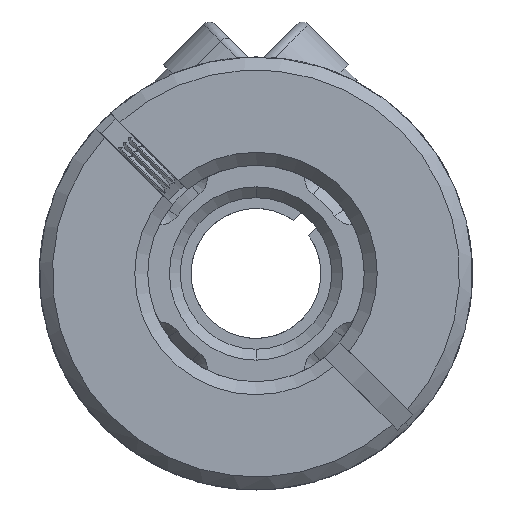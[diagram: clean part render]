
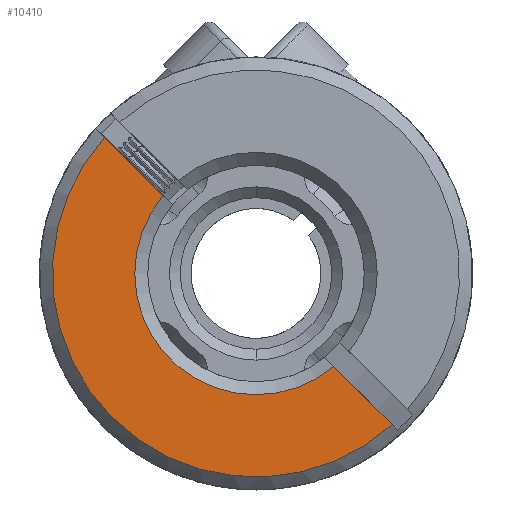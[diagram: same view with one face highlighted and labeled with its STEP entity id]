
A CAD part, front view. The second image highlights one B-rep face of the part: STEP entity #10410.
In plain terms, the highlighted planar face has unit normal (0, -1, 0).
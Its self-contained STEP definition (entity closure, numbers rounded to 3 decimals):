
#630 = CARTESIAN_POINT ( 'NONE',  ( 45.083, -11.2, 25.627 ) ) ;
#1399 = EDGE_CURVE ( 'NONE', #2615, #2754, #4367, .T. ) ;
#1575 = DIRECTION ( 'NONE',  ( 0., -1., 0. ) ) ;
#1679 = DIRECTION ( 'NONE',  ( -0.707, 0., 0.707 ) ) ;
#1916 = ORIENTED_EDGE ( 'NONE', *, *, #9627, .T. ) ;
#2141 = LINE ( 'NONE', #2695, #4874 ) ;
#2615 = VERTEX_POINT ( 'NONE', #5996 ) ;
#2695 = CARTESIAN_POINT ( 'NONE',  ( -8.839, -11.2, 8.132 ) ) ;
#2754 = VERTEX_POINT ( 'NONE', #14313 ) ;
#2912 = EDGE_CURVE ( 'NONE', #12064, #2615, #8315, .T. ) ;
#3493 = CARTESIAN_POINT ( 'NONE',  ( 3.59, -11.2, -4.298 ) ) ;
#3874 = VERTEX_POINT ( 'NONE', #13393 ) ;
#4367 = LINE ( 'NONE', #7797, #11079 ) ;
#4874 = VECTOR ( 'NONE', #10924, 1000. ) ;
#5638 = DIRECTION ( 'NONE',  ( -0.707, 0., 0.707 ) ) ;
#5996 = CARTESIAN_POINT ( 'NONE',  ( -4.298, -11.2, 3.59 ) ) ;
#6028 = CIRCLE ( 'NONE', #7454, 9.4 ) ;
#6114 = AXIS2_PLACEMENT_3D ( 'NONE', #12420, #11264, #5638 ) ;
#6600 = EDGE_CURVE ( 'NONE', #2754, #3874, #6028, .T. ) ;
#7454 = AXIS2_PLACEMENT_3D ( 'NONE', #10936, #1575, #1679 ) ;
#7797 = CARTESIAN_POINT ( 'NONE',  ( 0.205, -11.2, -0.912 ) ) ;
#8315 = CIRCLE ( 'NONE', #6114, 5.6 ) ;
#8639 = FACE_OUTER_BOUND ( 'NONE', #11493, .T. ) ;
#8766 = DIRECTION ( 'NONE',  ( -0.707, 0., 0.707 ) ) ;
#9627 = EDGE_CURVE ( 'NONE', #3874, #12064, #2141, .T. ) ;
#10410 = ADVANCED_FACE ( 'NONE', ( #8639 ), #12421, .T. ) ;
#10449 = ORIENTED_EDGE ( 'NONE', *, *, #1399, .T. ) ;
#10806 = AXIS2_PLACEMENT_3D ( 'NONE', #630, #14474, #8766 ) ;
#10924 = DIRECTION ( 'NONE',  ( -0.707, 0., 0.707 ) ) ;
#10936 = CARTESIAN_POINT ( 'NONE',  ( 0., -11.2, 0. ) ) ;
#11079 = VECTOR ( 'NONE', #14684, 1000. ) ;
#11264 = DIRECTION ( 'NONE',  ( 0., 1., 0. ) ) ;
#11493 = EDGE_LOOP ( 'NONE', ( #10449, #13984, #1916, #14545 ) ) ;
#12064 = VERTEX_POINT ( 'NONE', #3493 ) ;
#12420 = CARTESIAN_POINT ( 'NONE',  ( 0., -11.2, 0. ) ) ;
#12421 = PLANE ( 'NONE',  #10806 ) ;
#13393 = CARTESIAN_POINT ( 'NONE',  ( 6.284, -11.2, -6.991 ) ) ;
#13984 = ORIENTED_EDGE ( 'NONE', *, *, #6600, .T. ) ;
#14313 = CARTESIAN_POINT ( 'NONE',  ( -6.991, -11.2, 6.284 ) ) ;
#14474 = DIRECTION ( 'NONE',  ( 0., -1., 0. ) ) ;
#14545 = ORIENTED_EDGE ( 'NONE', *, *, #2912, .T. ) ;
#14684 = DIRECTION ( 'NONE',  ( -0.707, 0., 0.707 ) ) ;
